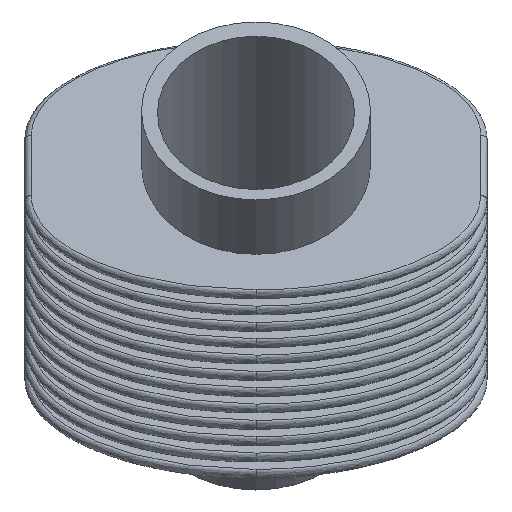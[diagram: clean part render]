
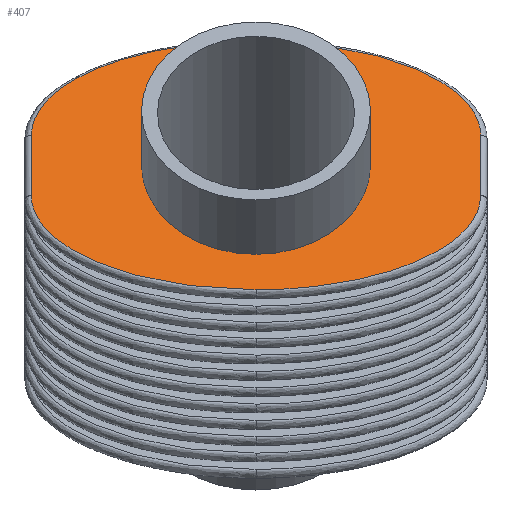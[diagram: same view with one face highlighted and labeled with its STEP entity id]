
A CAD part, front view. The second image highlights one B-rep face of the part: STEP entity #407.
In plain terms, the highlighted planar face has unit normal (0, -0.777, 0.629).
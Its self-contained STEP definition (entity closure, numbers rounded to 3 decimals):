
#407=ADVANCED_FACE('0:3913',(#828,#829),#830,.T.);
#828=FACE_OUTER_BOUND('',#4283,.T.);
#829=FACE_BOUND('',#4284,.T.);
#830=PLANE('',#4285);
#4283=EDGE_LOOP('',(#5462,#5463,#5464,#5465,#5466,#5467));
#4284=EDGE_LOOP('',(#5468,#5469));
#4285=AXIS2_PLACEMENT_3D('',#5470,#5471,#5472);
#5462=ORIENTED_EDGE('',*,*,#5906,.F.);
#5463=ORIENTED_EDGE('',*,*,#5925,.F.);
#5464=ORIENTED_EDGE('',*,*,#5900,.F.);
#5465=ORIENTED_EDGE('',*,*,#5976,.F.);
#5466=ORIENTED_EDGE('',*,*,#5810,.T.);
#5467=ORIENTED_EDGE('',*,*,#5663,.F.);
#5468=ORIENTED_EDGE('',*,*,#5729,.T.);
#5469=ORIENTED_EDGE('',*,*,#5777,.T.);
#5470=CARTESIAN_POINT('',(200.41,-410.057,-221.118));
#5471=DIRECTION('',(0.,-0.777,0.629));
#5472=DIRECTION('',(-1.0,0.,0.));
#5663=EDGE_CURVE('0:4792',#6166,#6168,#6169,.T.);
#5729=EDGE_CURVE('0:4369',#6275,#6273,#6276,.T.);
#5777=EDGE_CURVE('',#6273,#6275,#6354,.T.);
#5810=EDGE_CURVE('0:4777',#6397,#6168,#6398,.T.);
#5900=EDGE_CURVE('0:4768',#6517,#6519,#6520,.T.);
#5906=EDGE_CURVE('0:4027',#6525,#6166,#6527,.T.);
#5925=EDGE_CURVE('0:4789',#6519,#6525,#6548,.T.);
#5976=EDGE_CURVE('0:4039',#6397,#6517,#6603,.T.);
#6166=VERTEX_POINT('',#6844);
#6168=VERTEX_POINT('',#6850);
#6169=ELLIPSE('',#6851,43.953,23.735);
#6273=VERTEX_POINT('',#7023);
#6275=VERTEX_POINT('',#7026);
#6276=CIRCLE('',#7027,22.4);
#6354=CIRCLE('',#7125,22.4);
#6397=VERTEX_POINT('',#7200);
#6398=LINE('',#7201,#7202);
#6517=VERTEX_POINT('',#7377);
#6519=VERTEX_POINT('',#7383);
#6520=ELLIPSE('',#7384,43.953,23.735);
#6525=VERTEX_POINT('',#7393);
#6527=ELLIPSE('',#7395,43.953,23.735);
#6548=LINE('',#7428,#7429);
#6603=ELLIPSE('',#7498,43.953,23.735);
#6844=CARTESIAN_POINT('',(284.326,-391.785,-198.554));
#6850=CARTESIAN_POINT('',(328.279,-406.721,-216.999));
#6851=AXIS2_PLACEMENT_3D('',#7695,#7696,#7697);
#7023=CARTESIAN_POINT('',(261.926,-411.498,-222.898));
#7026=CARTESIAN_POINT('',(306.726,-411.498,-222.898));
#7027=AXIS2_PLACEMENT_3D('',#7780,#7781,#7782);
#7125=AXIS2_PLACEMENT_3D('',#7867,#7868,#7869);
#7200=CARTESIAN_POINT('',(328.279,-416.275,-228.796));
#7201=CARTESIAN_POINT('',(328.279,-416.275,-228.796));
#7202=VECTOR('',#7907,0.);
#7377=CARTESIAN_POINT('',(284.329,-431.211,-247.241));
#7383=CARTESIAN_POINT('',(240.373,-416.275,-228.796));
#7384=AXIS2_PLACEMENT_3D('',#8029,#8030,#8031);
#7393=CARTESIAN_POINT('',(240.373,-406.721,-216.999));
#7395=AXIS2_PLACEMENT_3D('',#8038,#8039,#8040);
#7428=CARTESIAN_POINT('',(240.373,-416.275,-228.796));
#7429=VECTOR('',#8062,0.);
#7498=AXIS2_PLACEMENT_3D('',#8109,#8110,#8111);
#7695=CARTESIAN_POINT('',(284.326,-406.721,-216.999));
#7696=DIRECTION('',(0.,0.777,-0.629));
#7697=DIRECTION('',(1.0,0.,0.));
#7780=CARTESIAN_POINT('',(284.326,-411.498,-222.898));
#7781=DIRECTION('',(0.,0.777,-0.629));
#7782=DIRECTION('',(-1.0,0.,0.));
#7867=CARTESIAN_POINT('',(284.326,-411.498,-222.898));
#7868=DIRECTION('',(0.,0.777,-0.629));
#7869=DIRECTION('',(-1.0,0.,0.));
#7907=DIRECTION('',(0.,0.629,0.777));
#8029=CARTESIAN_POINT('',(284.326,-416.275,-228.796));
#8030=DIRECTION('',(0.,0.777,-0.629));
#8031=DIRECTION('',(1.0,0.,0.));
#8038=CARTESIAN_POINT('',(284.326,-406.721,-216.999));
#8039=DIRECTION('',(0.,0.777,-0.629));
#8040=DIRECTION('',(1.0,0.,0.));
#8062=DIRECTION('',(0.,0.629,0.777));
#8109=CARTESIAN_POINT('',(284.326,-416.275,-228.796));
#8110=DIRECTION('',(0.,0.777,-0.629));
#8111=DIRECTION('',(1.0,0.,0.));
